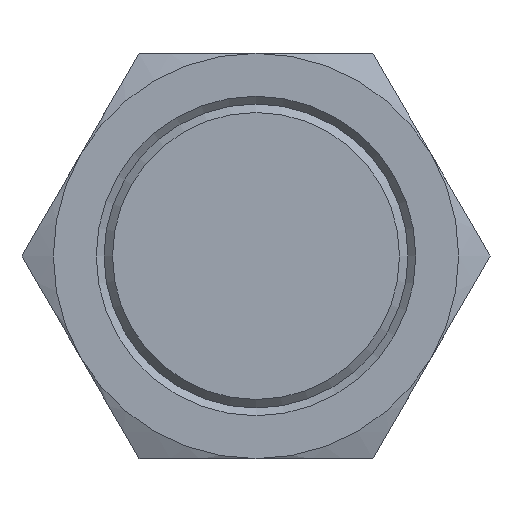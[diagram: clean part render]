
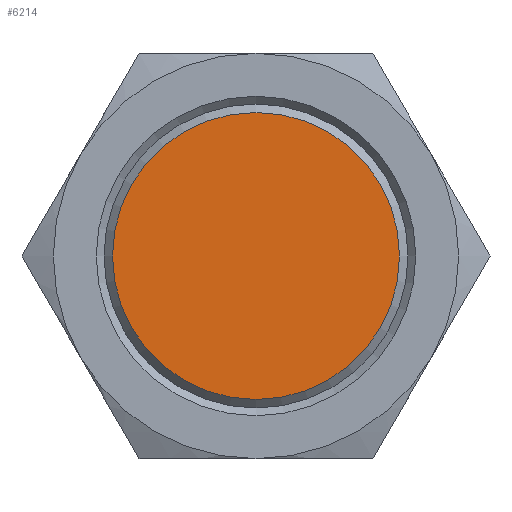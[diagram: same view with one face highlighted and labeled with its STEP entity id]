
A CAD part, left-side view. The second image highlights one B-rep face of the part: STEP entity #6214.
In plain terms, the highlighted planar face has unit normal (-1, 0, 0).
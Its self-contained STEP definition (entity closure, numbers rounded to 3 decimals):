
#6191=CARTESIAN_POINT('',(-19.058,10.426,0.));
#6192=VERTEX_POINT('',#6191);
#6193=CARTESIAN_POINT('',(-19.058,1.926,0.0));
#6194=DIRECTION('',(1.0,0.0,0.0));
#6195=DIRECTION('',(0.0,-1.0,0.0));
#6196=AXIS2_PLACEMENT_3D('',#6193,#6194,#6195);
#6197=CIRCLE('',#6196,8.5);
#6198=EDGE_CURVE('',#6192,#6192,#6197,.T.);
#6206=CARTESIAN_POINT('',(-19.058,1.926,0.0));
#6207=DIRECTION('',(1.0,0.0,0.0));
#6208=DIRECTION('',(0.0,0.0,1.0));
#6209=AXIS2_PLACEMENT_3D('',#6206,#6207,#6208);
#6210=PLANE('',#6209);
#6211=ORIENTED_EDGE('',*,*,#6198,.F.);
#6212=EDGE_LOOP('',(#6211));
#6213=FACE_OUTER_BOUND('',#6212,.T.);
#6214=ADVANCED_FACE('',(#6213),#6210,.F.);
